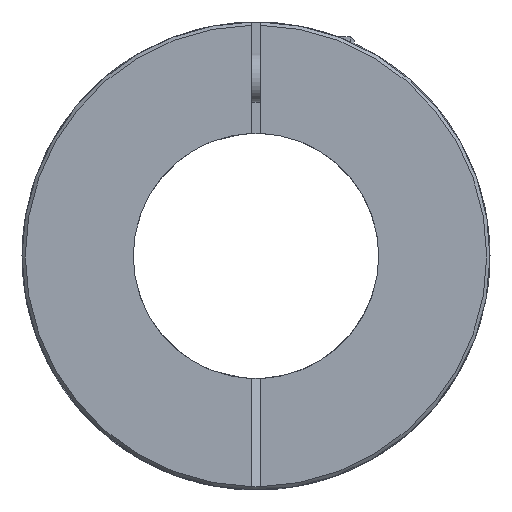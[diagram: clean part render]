
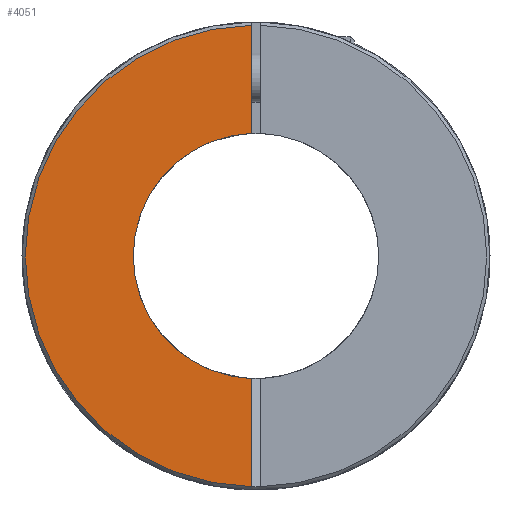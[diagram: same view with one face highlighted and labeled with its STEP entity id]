
A CAD part, front view. The second image highlights one B-rep face of the part: STEP entity #4051.
In plain terms, the highlighted planar face has unit normal (0, -1, 0).
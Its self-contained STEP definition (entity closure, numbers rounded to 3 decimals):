
#1=DIRECTION('',(0.,0.,-1.));
#2=VECTOR('',#1,13.204);
#3=CARTESIAN_POINT('',(-0.5,-65.,28.196));
#4=LINE('',#3,#2);
#5=CARTESIAN_POINT('',(0.,-65.,0.));
#6=DIRECTION('',(0.,1.,0.));
#7=DIRECTION('',(-1.,0.,0.));
#8=AXIS2_PLACEMENT_3D('',#5,#6,#7);
#10=CARTESIAN_POINT('',(0.,-65.,0.));
#11=DIRECTION('',(0.,1.,0.));
#12=DIRECTION('',(-0.033,0.,-0.999));
#13=AXIS2_PLACEMENT_3D('',#10,#11,#12);
#15=DIRECTION('',(0.,0.,-1.));
#16=VECTOR('',#15,13.204);
#17=CARTESIAN_POINT('',(-0.5,-65.,-14.992));
#18=LINE('',#17,#16);
#3468=CARTESIAN_POINT('',(0.,-65.,0.));
#3469=DIRECTION('',(0.,-1.,0.));
#3470=DIRECTION('',(-0.018,0.,1.));
#3471=AXIS2_PLACEMENT_3D('',#3468,#3469,#3470);
#3678=CARTESIAN_POINT('',(-15.,-65.,0.));
#3679=VERTEX_POINT('',#3678);
#3800=CARTESIAN_POINT('',(-0.5,-65.,28.196));
#3801=CARTESIAN_POINT('',(-0.5,-65.,14.992));
#3802=VERTEX_POINT('',#3800);
#3803=VERTEX_POINT('',#3801);
#3804=CARTESIAN_POINT('',(-0.5,-65.,-14.992));
#3805=CARTESIAN_POINT('',(-0.5,-65.,-28.196));
#3806=VERTEX_POINT('',#3804);
#3807=VERTEX_POINT('',#3805);
#4034=CARTESIAN_POINT('',(0.,-65.,0.));
#4035=DIRECTION('',(0.,1.,0.));
#4036=DIRECTION('',(1.,0.,0.));
#4037=AXIS2_PLACEMENT_3D('',#4034,#4035,#4036);
#4038=PLANE('',#4037);
#4040=ORIENTED_EDGE('',*,*,#4039,.T.);
#4042=ORIENTED_EDGE('',*,*,#4041,.F.);
#4044=ORIENTED_EDGE('',*,*,#4043,.F.);
#4046=ORIENTED_EDGE('',*,*,#4045,.T.);
#4048=ORIENTED_EDGE('',*,*,#4047,.F.);
#4049=EDGE_LOOP('',(#4040,#4042,#4044,#4046,#4048));
#4050=FACE_OUTER_BOUND('',#4049,.F.);
#4051=ADVANCED_FACE('',(#4050),#4038,.F.);
#9=CIRCLE('',#8,15.);
#14=CIRCLE('',#13,15.);
#3472=CIRCLE('',#3471,28.2);
#4039=EDGE_CURVE('',#3802,#3803,#4,.T.);
#4041=EDGE_CURVE('',#3679,#3803,#9,.T.);
#4043=EDGE_CURVE('',#3806,#3679,#14,.T.);
#4045=EDGE_CURVE('',#3806,#3807,#18,.T.);
#4047=EDGE_CURVE('',#3802,#3807,#3472,.T.);
